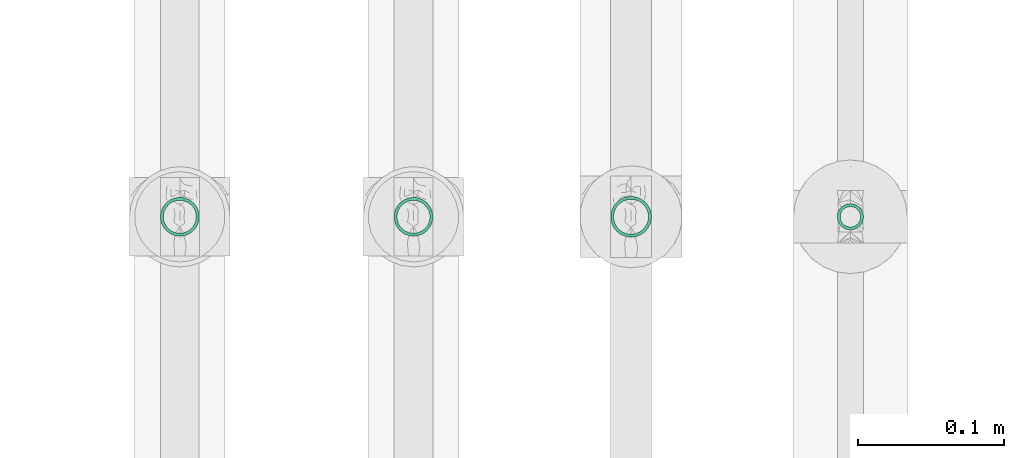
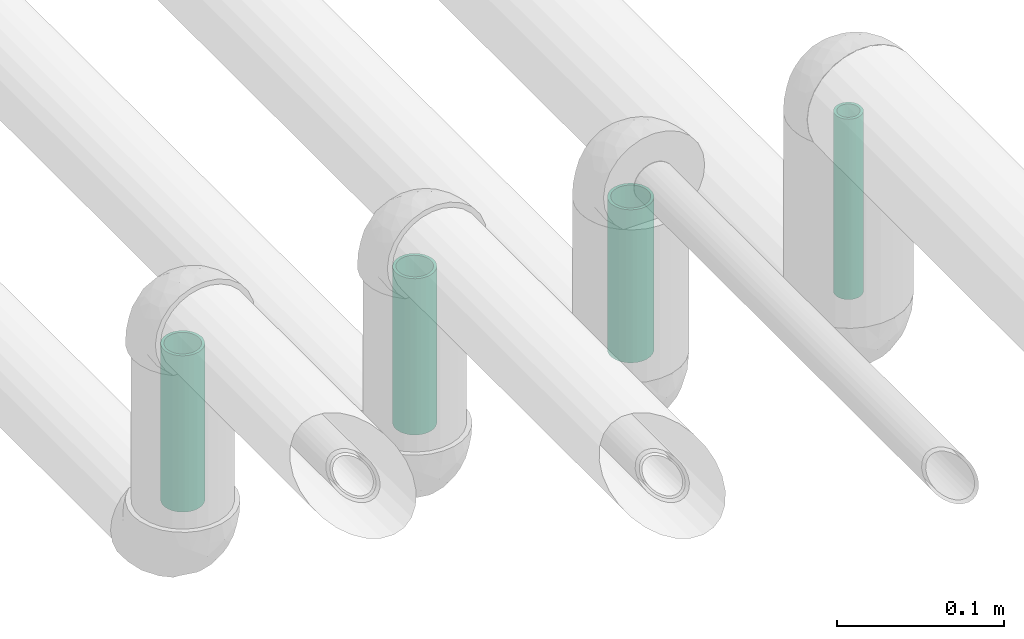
# One storey, part 31 of 83: 4 flow segments.
"""IFC2X3 building model written with IfcOpenShell, lengths in millimetres."""

import ifcopenshell
import ifcopenshell.guid

model = None  # the IFC model being written
_history = None  # IfcOwnerHistory: only IFC2X3 demands one
_inside = {}  # id of a spatial element -> (the spatial element, [elements in it])
_under = {}  # id of a project, library or spatial element -> (it, [spatial elements below it])
_declared = {}  # id of a project -> (the project, [libraries it declares])
_typed = {}  # id of a type object -> (the type object, [elements of that type])
_made_of = {}  # id of a material, layer set ... -> (it, [elements and type objects made of it])


def new_model(schema):
    """Start an empty IFC model of exactly this schema.

    Asked for "IFC4X3", IfcOpenShell would pick the latest addendum, in which some entities
    have other attributes; the version numbers below select the first issue.
    IFC2X3 requires an IfcOwnerHistory on every rooted entity: one is made here for all.
    """
    global model, _history
    if schema == "IFC4X3":
        model = ifcopenshell.file(schema_version=(4, 3, 0, 0))
    else:
        model = ifcopenshell.file(schema=schema)
    _inside.clear()
    _under.clear()
    _declared.clear()
    _typed.clear()
    _made_of.clear()
    _history = None
    if model.schema == "IFC2X3":
        org = make("IfcOrganization", Name="unknown")
        user = make(
            "IfcPersonAndOrganization",
            ThePerson=make("IfcPerson", FamilyName="unknown"),
            TheOrganization=org,
        )
        app = make(
            "IfcApplication",
            ApplicationDeveloper=org,
            Version="unknown",
            ApplicationFullName="unknown",
            ApplicationIdentifier="unknown",
        )
        _history = make(
            "IfcOwnerHistory",
            OwningUser=user,
            OwningApplication=app,
            ChangeAction="ADDED",
            CreationDate=0,
        )
    return model


def make(cls, **values):
    """One entity of the class cls with the attributes given. An attribute that is None is left unset."""
    return model.create_entity(
        cls, **{name: value for name, value in values.items() if value is not None}
    )


def entity(cls, *values):
    """Any entity or typed value of the class cls, its attributes in the order of the schema. None: left unset."""
    e = model.create_entity(cls)
    for i, value in enumerate(values):
        if value is not None:
            e[i] = value
    return e


def rooted(cls, **values):
    """An entity with a GlobalId (a new one), such as an element, a storey or a relation."""
    return make(cls, GlobalId=ifcopenshell.guid.new(), OwnerHistory=_history, **values)


def si_unit(unit_type, name, prefix=None):
    """IfcSIUnit, for example si_unit("LENGTHUNIT", "METRE", prefix="MILLI")."""
    return make("IfcSIUnit", UnitType=unit_type, Prefix=prefix, Name=name)


def converted_unit(unit_type, name, factor, base, dimensions=None, offset=None):
    """IfcConversionBasedUnit, such as the inch: factor (a typed value) times the base unit."""
    return make(
        "IfcConversionBasedUnit"
        if offset is None
        else "IfcConversionBasedUnitWithOffset",
        ConversionOffset=offset,
        Dimensions=None
        if dimensions is None
        else entity("IfcDimensionalExponents", *dimensions),
        UnitType=unit_type,
        Name=name,
        ConversionFactor=make(
            "IfcMeasureWithUnit", ValueComponent=factor, UnitComponent=base
        ),
    )


def derived_unit(unit_type, elements):
    """IfcDerivedUnit: a product of units, each with its exponent."""
    return make(
        "IfcDerivedUnit",
        Elements=[
            make("IfcDerivedUnitElement", Unit=unit, Exponent=power)
            for unit, power in elements
        ],
        UnitType=unit_type,
    )


def assignment(units):
    """IfcUnitAssignment: the units of a project."""
    return None if units is None else make("IfcUnitAssignment", Units=units)


def point(xyz):
    """IfcCartesianPoint."""
    return None if xyz is None else make("IfcCartesianPoint", Coordinates=xyz)


def direction(xyz):
    """IfcDirection."""
    return None if xyz is None else make("IfcDirection", DirectionRatios=xyz)


def frame(location, z_axis=None, x_axis=None):
    """IfcAxis2Placement3D, a coordinate frame: its origin and axes. An axis left out is left unset."""
    return make(
        "IfcAxis2Placement3D",
        Location=point(location),
        Axis=direction(z_axis),
        RefDirection=direction(x_axis),
    )


def frame_2d(location, x_axis=None):
    """IfcAxis2Placement2D, a coordinate frame in the plane: its origin and x axis."""
    return make(
        "IfcAxis2Placement2D", Location=point(location), RefDirection=direction(x_axis)
    )


def origin_with_axes():
    """The frame at (0, 0, 0) with the z axis (0, 0, 1) and the x axis (1, 0, 0) written out."""
    return frame((0.0, 0.0, 0.0), z_axis=(0.0, 0.0, 1.0), x_axis=(1.0, 0.0, 0.0))


def origin_2d_with_axis():
    """The frame at (0, 0) in the plane with the x axis (1, 0) written out."""
    return frame_2d((0.0, 0.0), x_axis=(1.0, 0.0))


def place(relative_to, where):
    """IfcLocalPlacement: puts the frame where relative to a parent placement (None: the world)."""
    return make(
        "IfcLocalPlacement", PlacementRelTo=relative_to, RelativePlacement=where
    )


def context(
    kind, dimensions, precision=None, world=None, true_north=None, identifier=None
):
    """IfcGeometricRepresentationContext, for example the 3D "Model" context."""
    return make(
        "IfcGeometricRepresentationContext",
        ContextIdentifier=identifier,
        ContextType=kind,
        CoordinateSpaceDimension=dimensions,
        Precision=precision,
        WorldCoordinateSystem=world,
        TrueNorth=true_north,
    )


def subcontext(parent, identifier, kind, view, scale=None):
    """IfcGeometricRepresentationSubContext, for example "Body" below "Model"."""
    return make(
        "IfcGeometricRepresentationSubContext",
        ContextIdentifier=identifier,
        ContextType=kind,
        ParentContext=parent,
        TargetScale=scale,
        TargetView=view,
    )


def project(units=None, contexts=None):
    """IfcProject with its units and contexts."""
    return rooted(
        "IfcProject",
        Name="project",
        RepresentationContexts=contexts,
        UnitsInContext=assignment(units),
    )


def spatial(cls, under=None, at=None, **own):
    """A site, building, storey or space (cls), placed at a placement, below another one or the project."""
    s = rooted(cls, ObjectPlacement=at, **own)
    if under is not None:
        _under.setdefault(under.id(), (under, []))[1].append(s)
    return s


def profile(cls, at=None, kind="AREA", **sizes):
    """A parametric profile (cls). Its sizes go by their IFC names, for example OverallWidth=200.0."""
    return make(cls, ProfileType=kind, Position=at, **sizes)


def hollow_circle(**sizes):
    """IfcCircleHollowProfileDef."""
    return profile("IfcCircleHollowProfileDef", **sizes)


def extrude(swept, where, along, depth):
    """IfcExtrudedAreaSolid: the profile swept, set in the frame where, extruded along a direction by depth."""
    return make(
        "IfcExtrudedAreaSolid",
        SweptArea=swept,
        Position=where,
        ExtrudedDirection=direction(along),
        Depth=depth,
    )


def shape(context_of_items, identifier, shape_type, items):
    """IfcShapeRepresentation: the items that make up one representation, for example the "Body"."""
    return make(
        "IfcShapeRepresentation",
        ContextOfItems=context_of_items,
        RepresentationIdentifier=identifier,
        RepresentationType=shape_type,
        Items=items,
    )


def source(mapping_origin, context_of_items, identifier, shape_type, items):
    """IfcRepresentationMap: a shape defined once, which mapped items show again and again."""
    return make(
        "IfcRepresentationMap",
        MappingOrigin=mapping_origin,
        MappedRepresentation=shape(context_of_items, identifier, shape_type, items),
    )


def transform(
    local_origin,
    x_axis=None,
    y_axis=None,
    z_axis=None,
    scale=None,
    scale2=None,
    scale3=None,
    uniform=True,
):
    """IfcCartesianTransformationOperator3D, or its non-uniform kind. x_axis, y_axis, z_axis: its Axis1, 2, 3."""
    if uniform:
        return make(
            "IfcCartesianTransformationOperator3D",
            Axis1=direction(x_axis),
            Axis2=direction(y_axis),
            LocalOrigin=point(local_origin),
            Scale=scale,
            Axis3=direction(z_axis),
        )
    return make(
        "IfcCartesianTransformationOperator3DnonUniform",
        Axis1=direction(x_axis),
        Axis2=direction(y_axis),
        LocalOrigin=point(local_origin),
        Scale=scale,
        Axis3=direction(z_axis),
        Scale2=scale2,
        Scale3=scale3,
    )


def mapped(mapping_source, mapping_target):
    """IfcMappedItem: shows the shape of a source again, moved by a transform."""
    return make(
        "IfcMappedItem", MappingSource=mapping_source, MappingTarget=mapping_target
    )


def made_of(thing, what):
    """Note that an element or type object is made of a material, layer set ...; save() writes the relation."""
    if what is not None:
        _made_of.setdefault(what.id(), (what, []))[1].append(thing)
    return thing


def type_object(cls, material=None, **own):
    """A type object (cls), such as IfcWallType, which elements share."""
    return made_of(rooted(cls, **own), material)


def element(
    cls,
    number,
    at=None,
    inside=None,
    cuts=None,
    type_object=None,
    material=None,
    context=None,
    identifier="Body",
    shape_type=None,
    held_by="IfcProductDefinitionShape",
    body=None,
    shapes=None,
    **own,
):
    """One element of the class cls, such as IfcWall. Its Tag is "e" and its number.

    at: its placement. inside: the storey or other place that contains it. cuts: it is an
    opening in that element (IfcRelVoidsElement). A single representation is given by context,
    identifier, shape_type and body (its items); several are given by shapes. held_by: the class
    of the entity that holds the representations. save() writes the other relations.
    """
    e = rooted(cls, Tag="e%d" % number, ObjectPlacement=at, **own)
    if body is not None:
        shapes = [shape(context, identifier, shape_type, body)]
    if shapes is not None:
        e.Representation = make(held_by, Representations=shapes)
    if inside is not None:
        _inside.setdefault(inside.id(), (inside, []))[1].append(e)
    if cuts is not None:
        rooted(
            "IfcRelVoidsElement", RelatingBuildingElement=cuts, RelatedOpeningElement=e
        )
    if type_object is not None:
        _typed.setdefault(type_object.id(), (type_object, []))[1].append(e)
    return made_of(e, material)


def aggregate(whole, parts):
    """IfcRelAggregates: a whole, such as a stair, and the parts it consists of."""
    return rooted("IfcRelAggregates", RelatingObject=whole, RelatedObjects=parts)


def save(model, path):
    """Write the relations noted so far, then the file.

    IfcRelAggregates (storeys below a building ...), IfcRelContainedInSpatialStructure (elements
    in a storey), IfcRelDefinesByType, IfcRelAssociatesMaterial and IfcRelDeclares: one each for
    every whole, place, type object, material and project.
    """
    for whole, parts in _under.values():
        aggregate(whole, parts)
    for where, things in _inside.values():
        rooted(
            "IfcRelContainedInSpatialStructure",
            RelatedElements=things,
            RelatingStructure=where,
        )
    for kind, things in _typed.values():
        rooted("IfcRelDefinesByType", RelatedObjects=things, RelatingType=kind)
    for what, things in _made_of.values():
        rooted("IfcRelAssociatesMaterial", RelatedObjects=things, RelatingMaterial=what)
    for by, libraries in _declared.values():
        rooted("IfcRelDeclares", RelatingContext=by, RelatedDefinitions=libraries)
    model.write(path)


model = new_model("IFC2X3")

# Units and contexts
model_context = context("Model", 3, precision=0.01, world=frame((0.0, 4.29681676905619e-09, 0.0)), true_north=direction((4.01073788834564e-13, 1.0)))
plan_context = context("Plan", 3, precision=0.01, world=frame((0.0, 4.29681676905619e-09, 0.0)), true_north=direction((4.01073788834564e-13, 1.0)))
body_context = subcontext(model_context, "Body", "Model", "MODEL_VIEW")
ifc_project = project(units=[converted_unit("PLANEANGLEUNIT", "DEGREE", entity("IfcPositiveLengthMeasure", 0.0174532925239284), si_unit("PLANEANGLEUNIT", "RADIAN"), dimensions=[0, 0, 0, 0, 0, 0, 0]), si_unit("AREAUNIT", "SQUARE_METRE"), si_unit("LENGTHUNIT", "METRE", prefix="MILLI"), si_unit("MASSUNIT", "GRAM", prefix="KILO"), si_unit("POWERUNIT", "WATT"), si_unit("PRESSUREUNIT", "PASCAL"), si_unit("FORCEUNIT", "NEWTON", prefix="KILO"), si_unit("ELECTRICVOLTAGEUNIT", "VOLT"), si_unit("ELECTRICCURRENTUNIT", "AMPERE"), si_unit("THERMODYNAMICTEMPERATUREUNIT", "DEGREE_CELSIUS"), si_unit("TIMEUNIT", "SECOND"), si_unit("VOLUMEUNIT", "CUBIC_METRE"), derived_unit("LINEARVELOCITYUNIT", [(si_unit("LENGTHUNIT", "METRE"), 1), (si_unit("TIMEUNIT", "SECOND"), -1)]), derived_unit("VOLUMETRICFLOWRATEUNIT", [(si_unit("VOLUMEUNIT", "CUBIC_METRE"), 1), (si_unit("TIMEUNIT", "SECOND"), -1)]), derived_unit("THERMALTRANSMITTANCEUNIT", [(si_unit("POWERUNIT", "WATT"), 1), (si_unit("THERMODYNAMICTEMPERATUREUNIT", "KELVIN"), -1), (si_unit("AREAUNIT", "SQUARE_METRE"), -1)]), derived_unit("SOUNDPRESSUREUNIT", [(si_unit("PRESSUREUNIT", "PASCAL"), 1)])], contexts=[model_context, plan_context])

# Site, building, storey
site_placement = place(None, frame((0.0, -4.29681676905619e-09, 0.0), z_axis=(0.0, 0.0, 1.0), x_axis=(1.0, 0.0, 0.0)))
site = spatial("IfcSite", under=ifc_project, at=site_placement, Name="ENGM", CompositionType="ELEMENT")
building_placement = place(site_placement, frame((0.0, 4.29681676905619e-09, 0.0), z_axis=(0.0, 0.0, 1.0), x_axis=(1.0, 0.0, 0.0)))
building = spatial("IfcBuilding", under=site, at=building_placement, Name="TI", CompositionType="ELEMENT")
storey_placement = place(building_placement, frame((0.0, 0.0, 204000.0), z_axis=(0.0, 0.0, 1.0), x_axis=(1.0, 0.0, 0.0)))
storey = spatial("IfcBuildingStorey", under=building, at=storey_placement, Name="Nivå D", CompositionType="ELEMENT", Elevation=204000.0)

# Flow segments
pipe_segment_type_1 = type_object("IfcPipeSegmentType", Name="Kobberrør", PredefinedType="RIGIDSEGMENT")
shared_shape_1 = source(origin_with_axes(), body_context, "Body", "SweptSolid", [
    extrude(hollow_circle(Radius=9.0, WallThickness=2.0, at=origin_2d_with_axis()), frame((0.0, 0.0, 0.0), z_axis=(1.0, 0.0, 0.0), x_axis=(0.0, 1.0, 0.0)), (0.0, 0.0, 1.0), 131.8),
])
flow_segment_1_placement = place(storey_placement, frame((600031.9743, 696607.72914, 6070.20000000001), z_axis=(-1.0, 0.0, 0.0), x_axis=(0.0, 0.0, 1.0)))
element("IfcFlowSegment", 1, at=flow_segment_1_placement, inside=storey, type_object=pipe_segment_type_1, Name="Kobberrør", context=body_context, shape_type="MappedRepresentation", body=[
    mapped(shared_shape_1, transform((0.0, 0.0, 0.0), scale=1.0)),
])
shared_shape_2 = source(origin_with_axes(), body_context, "Body", "SweptSolid", [
    extrude(hollow_circle(Radius=14.0, WallThickness=2.0, at=origin_2d_with_axis()), frame((0.0, 0.0, 0.0), z_axis=(1.0, 0.0, 0.0), x_axis=(0.0, 1.0, 0.0)), (0.0, 0.0, 1.0), 111.8),
])
flow_segment_2_placement = place(storey_placement, frame((599881.50429, 696607.72899, 6080.18208), z_axis=(-1.0, 0.0, 0.0), x_axis=(0.0, 0.0, 1.0)))
element("IfcFlowSegment", 2, at=flow_segment_2_placement, inside=storey, type_object=pipe_segment_type_1, Name="Kobberrør", context=body_context, shape_type="MappedRepresentation", body=[
    mapped(shared_shape_2, transform((0.0, 0.0, 0.0), scale=1.0)),
])
pipe_segment_type_2 = type_object("IfcPipeSegmentType", Name="Stålrør normaltykke", PredefinedType="RIGIDSEGMENT")
shared_shape_3 = source(origin_with_axes(), body_context, "Body", "SweptSolid", [
    extrude(hollow_circle(Radius=13.3, WallThickness=2.0, at=origin_2d_with_axis()), frame((0.0, 0.0, 0.0), z_axis=(1.0, 0.0, 0.0), x_axis=(0.0, 1.0, 0.0)), (0.0, 0.0, 1.0), 114.2),
])
for number, where, z_axis, x_axis in (
    (3, (599571.9743, 696607.72914, 6079.0), (-1.0, 0.0, 0.0), (0.0, 0.0, 1.0)),
    (4, (599732.2743, 696607.72915, 6079.20415999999), (-1.0, 0.0, 0.0), (0.0, 0.0, 1.0)),
):
    element("IfcFlowSegment", number, at=place(storey_placement, frame(where, z_axis=z_axis, x_axis=x_axis)), inside=storey, type_object=pipe_segment_type_2, Name="Stålrør normaltykke", context=body_context, shape_type="MappedRepresentation", body=[
        mapped(shared_shape_3, transform((0.0, 0.0, 0.0), scale=1.0)),
    ])

save(model, "model.ifc")
